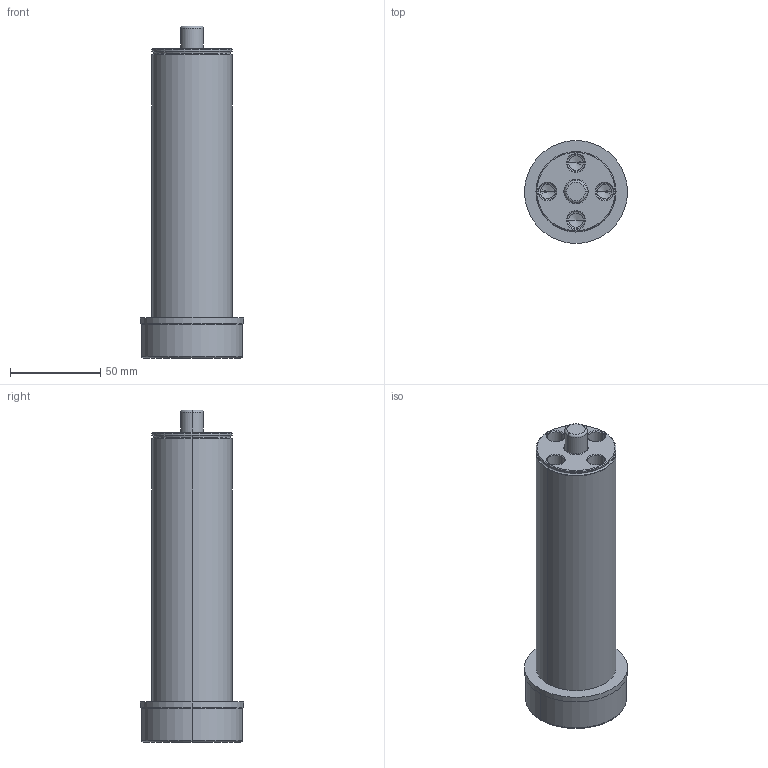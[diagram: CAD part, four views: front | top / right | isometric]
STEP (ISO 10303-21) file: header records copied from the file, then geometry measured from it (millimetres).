
FILE_DESCRIPTION (( 'STEP AP214' ), '1' );
FILE_NAME ('GK175-E-6-GuidePin.STEP', '2010-11-16T20:34:56', ( ' ' ), ( '' ), 'SwSTEP 2.0', 'SolidWorks 2010', '' );
FILE_SCHEMA (( 'AUTOMOTIVE_DESIGN' ));
Length unit declared in the file: inch
Products named in the file (1): GK175-E-6-GuidePin
Bounding box: 57.15 x 57.15 x 184.15 mm (x, y, z)
Volume: 279302 mm3; surface area: 36357.1 mm2
Topology: 2 solids, 2 shells, 76 faces, 158 edges, 84 vertices
Faces by surface type: cylinder 28, cone 24, torus 18, plane 6
Entity records: 2237 total; most frequent: DIRECTION 402, CARTESIAN_POINT 311, ORIENTED_EDGE 300, AXIS2_PLACEMENT_3D 175, EDGE_CURVE 150, CIRCLE 98, EDGE_LOOP 84, VERTEX_POINT 84
